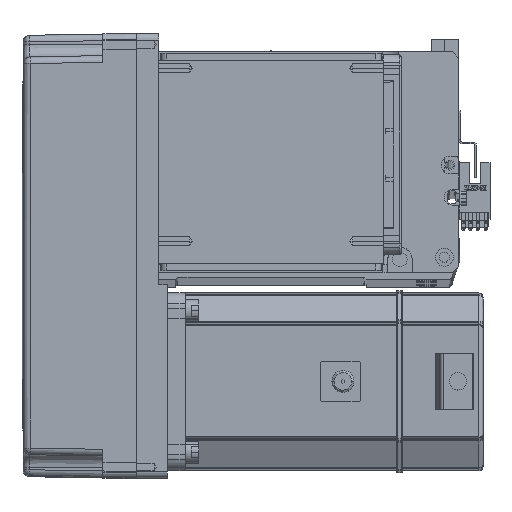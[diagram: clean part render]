
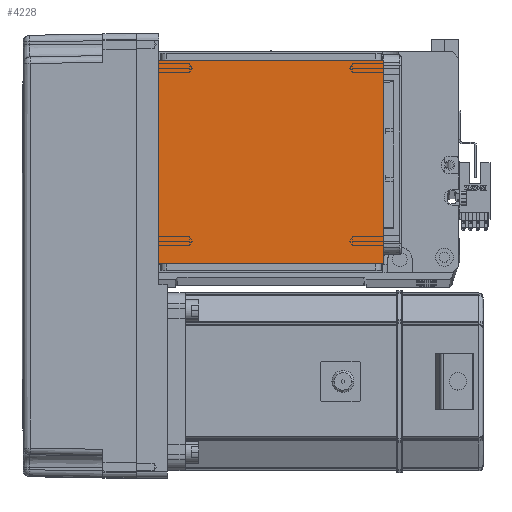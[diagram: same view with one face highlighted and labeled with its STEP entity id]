
A CAD part, top view. The second image highlights one B-rep face of the part: STEP entity #4228.
In plain terms, the highlighted planar face has unit normal (0, 0, 1).
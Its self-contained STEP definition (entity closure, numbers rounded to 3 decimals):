
#2575 = DIRECTION ( 'NONE',  ( 1., 0., 0. ) ) ;
#3340 = CARTESIAN_POINT ( 'NONE',  ( -50.5, 20., 115. ) ) ;
#3875 = VECTOR ( 'NONE', #24304, 1000. ) ;
#4228 = ADVANCED_FACE ( 'NONE', ( #39394 ), #18892, .T. ) ;
#4597 = LINE ( 'NONE', #38533, #3875 ) ;
#8689 = CARTESIAN_POINT ( 'NONE',  ( 0., 0., 115. ) ) ;
#9642 = EDGE_CURVE ( 'NONE', #26087, #53705, #15640, .T. ) ;
#9866 = VECTOR ( 'NONE', #55774, 1000. ) ;
#11171 = DIRECTION ( 'NONE',  ( -1., 0., 0. ) ) ;
#15332 = VERTEX_POINT ( 'NONE', #59619 ) ;
#15640 = LINE ( 'NONE', #59871, #21668 ) ;
#16333 = EDGE_LOOP ( 'NONE', ( #39196, #55475, #22981, #33168 ) ) ;
#18892 = PLANE ( 'NONE',  #23714 ) ;
#20251 = LINE ( 'NONE', #25411, #23975 ) ;
#21668 = VECTOR ( 'NONE', #2575, 1000. ) ;
#22161 = CARTESIAN_POINT ( 'NONE',  ( 50.5, 122., 115. ) ) ;
#22850 = EDGE_CURVE ( 'NONE', #26087, #37587, #4597, .T. ) ;
#22981 = ORIENTED_EDGE ( 'NONE', *, *, #36961, .F. ) ;
#23710 = DIRECTION ( 'NONE',  ( 1., 0., 0. ) ) ;
#23714 = AXIS2_PLACEMENT_3D ( 'NONE', #8689, #42514, #23710 ) ;
#23975 = VECTOR ( 'NONE', #11171, 1000. ) ;
#24298 = CARTESIAN_POINT ( 'NONE',  ( -50.5, 111.5, 115. ) ) ;
#24304 = DIRECTION ( 'NONE',  ( 0., -1., 0. ) ) ;
#25411 = CARTESIAN_POINT ( 'NONE',  ( -70.004, 20., 115. ) ) ;
#26087 = VERTEX_POINT ( 'NONE', #24298 ) ;
#33168 = ORIENTED_EDGE ( 'NONE', *, *, #61543, .T. ) ;
#33816 = CARTESIAN_POINT ( 'NONE',  ( 50.5, 111.5, 115. ) ) ;
#36961 = EDGE_CURVE ( 'NONE', #15332, #37587, #20251, .T. ) ;
#37587 = VERTEX_POINT ( 'NONE', #3340 ) ;
#38533 = CARTESIAN_POINT ( 'NONE',  ( -50.5, 122., 115. ) ) ;
#39196 = ORIENTED_EDGE ( 'NONE', *, *, #9642, .F. ) ;
#39394 = FACE_OUTER_BOUND ( 'NONE', #16333, .T. ) ;
#42514 = DIRECTION ( 'NONE',  ( 0., 0., 1. ) ) ;
#44979 = LINE ( 'NONE', #22161, #9866 ) ;
#53705 = VERTEX_POINT ( 'NONE', #33816 ) ;
#55475 = ORIENTED_EDGE ( 'NONE', *, *, #22850, .T. ) ;
#55774 = DIRECTION ( 'NONE',  ( 0., 1., 0. ) ) ;
#59619 = CARTESIAN_POINT ( 'NONE',  ( 50.5, 20., 115. ) ) ;
#59871 = CARTESIAN_POINT ( 'NONE',  ( -70.004, 111.5, 115. ) ) ;
#61543 = EDGE_CURVE ( 'NONE', #15332, #53705, #44979, .T. ) ;
